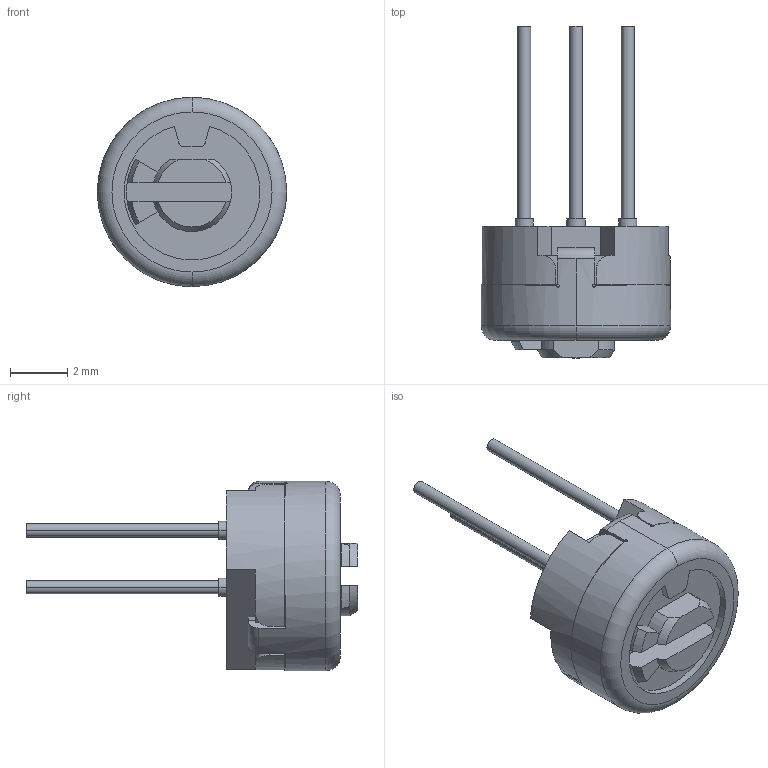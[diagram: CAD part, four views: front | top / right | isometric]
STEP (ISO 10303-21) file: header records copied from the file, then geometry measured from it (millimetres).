
FILE_DESCRIPTION((''),'2;1');
FILE_NAME('3329H-1','2023-05-17T14:38:23',('RICKB'),('Bourns, Inc.'),'CREO PARAMETRIC BY PTC INC, 2018050','CREO PARAMETRIC BY PTC INC, 2018050','');
FILE_SCHEMA(('AUTOMOTIVE_DESIGN { 1 0 10303 214 1 1 1 1 }'));
Length unit declared in the file: inch
Products named in the file (1): 3329H-1
Bounding box: 6.6 x 11.58 x 6.6 mm (x, y, z)
Volume: 86.4 mm3; surface area: 316 mm2
Topology: 1 solids, 1 shells, 135 faces, 386 edges, 252 vertices
Faces by surface type: plane 78, cylinder 40, torus 12, cone 5
Entity records: 5947 total; most frequent: CARTESIAN_POINT 1113, ORIENTED_EDGE 772, DIRECTION 751, PRESENTATION_STYLE_ASSIGNMENT 387, STYLED_ITEM 387, CURVE_STYLE 386, EDGE_CURVE 386, AXIS2_PLACEMENT_3D 269
